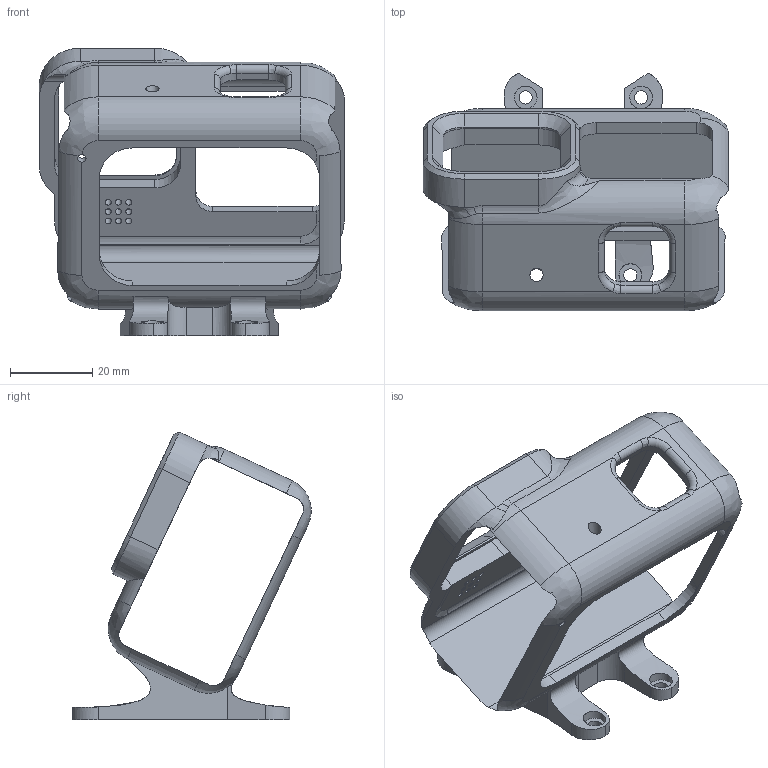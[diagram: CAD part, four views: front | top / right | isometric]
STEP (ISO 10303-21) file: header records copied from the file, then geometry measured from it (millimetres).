
FILE_DESCRIPTION(/* description */ (''),/* implementation_level */ '2;1');
FILE_NAME(/* name */ 'QM GOPRO HERO 9-12 25 DEGREES.step',/* time_stamp */ '2025-11-11T21:34:47-05:00',/* author */ (''),/* organization */ (''),/* preprocessor_version */ 'ST-DEVELOPER v20.1',/* originating_system */ 'Autodesk Translation Framework v14.21.0.0',/* authorisation */ '');
FILE_SCHEMA (('AUTOMOTIVE_DESIGN { 1 0 10303 214 3 1 1 }'));
Length unit declared in the file: millimetre
Products named in the file (2): FINISH; FIXED DEGREE GOPRO
Assembly tree (1 placements, depth 2):
  FINISH
    FIXED DEGREE GOPRO
Bounding box: 74.07 x 57.74 x 69.77 mm (x, y, z)
Volume: 25309.9 mm3; surface area: 18909.5 mm2
Topology: 1 solids, 1 shells, 190 faces, 536 edges, 342 vertices
Faces by surface type: cylinder 81, plane 72, bspline 23, cone 8, torus 6
Full cylindrical faces by diameter (mm): 1.5 x9, 2 x1, 3.2 x5, 5.5 x4
Entity records: 7489 total; most frequent: CARTESIAN_POINT 2599, ORIENTED_EDGE 1072, DIRECTION 946, EDGE_CURVE 536, AXIS2_PLACEMENT_3D 351, VERTEX_POINT 342, LINE 244, VECTOR 244
